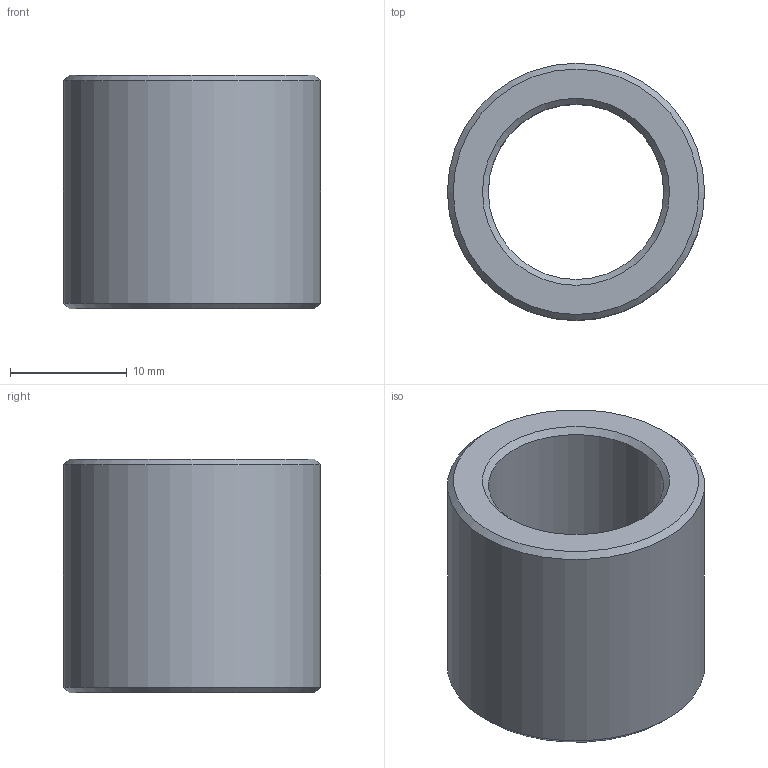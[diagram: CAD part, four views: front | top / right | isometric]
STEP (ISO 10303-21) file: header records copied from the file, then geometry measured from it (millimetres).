
FILE_DESCRIPTION(/* description */ (''),/* implementation_level */ '2;1');
FILE_NAME(/* name */ '',/* time_stamp */ '2024-07-17T10:26:36+09:00',/* author */ ('jhkim'),/* organization */ (''),/* preprocessor_version */ 'ST-DEVELOPER v20',/* originating_system */ 'Autodesk Inventor 2025',/* authorisation */ '');
FILE_SCHEMA (('AUTOMOTIVE_DESIGN { 1 0 10303 214 3 1 1 }'));
Length unit declared in the file: millimetre
Products named in the file (1): 칼라
Bounding box: 22 x 22 x 20 mm (x, y, z)
Volume: 4039.3 mm3; surface area: 2663.5 mm2
Topology: 1 solids, 1 shells, 8 faces, 14 edges, 8 vertices
Faces by surface type: cone 4, cylinder 2, plane 2
Full cylindrical faces by diameter (mm): 15 x1, 22 x1
Entity records: 241 total; most frequent: DIRECTION 40, CARTESIAN_POINT 31, ORIENTED_EDGE 28, AXIS2_PLACEMENT_3D 17, EDGE_CURVE 14, EDGE_LOOP 10, FACE_OUTER_BOUND 8, CIRCLE 8
